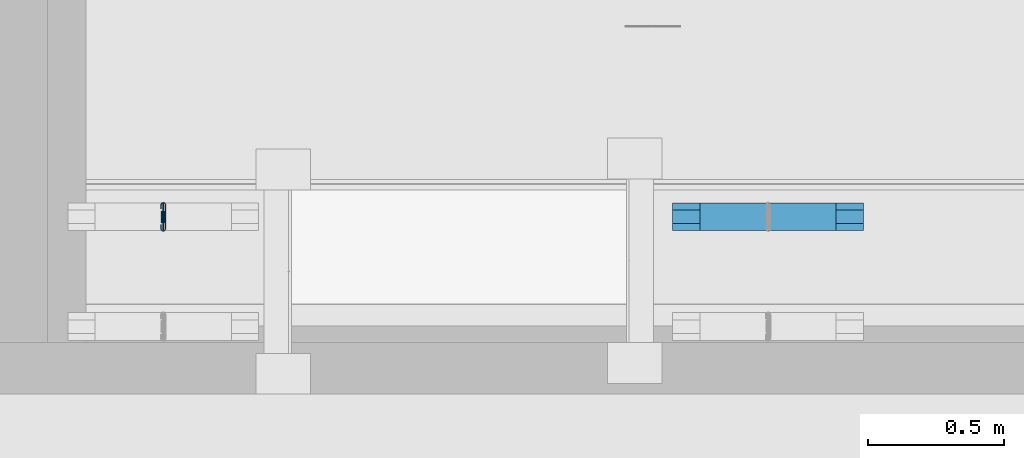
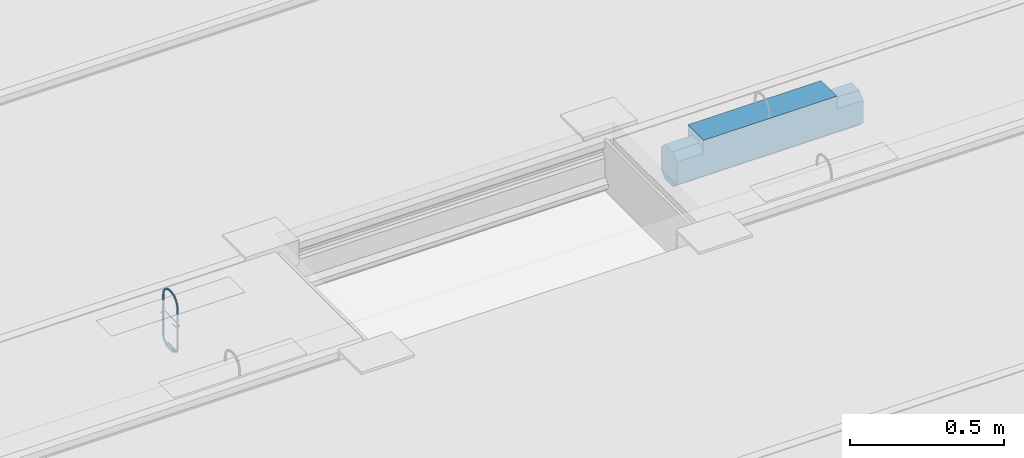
# One storey, part 179 of 230: 2 beams.
"""IFC4X3_ADD2 building model written with IfcOpenShell, lengths in millimetres."""

from ifc_helpers import new_model, si_unit, direction, origin_with_axes, place, context, subcontext, project, spatial, triangles, polygons, element, save


model = new_model("IFC4X3_ADD2")

# Units and contexts
model_context = context("Model", 3, precision=1e-05, world=origin_with_axes(), true_north=direction((0.0, 1.0)))
body_context = subcontext(model_context, "Body", "Model", "MODEL_VIEW")
ifc_project = project(units=[si_unit("LENGTHUNIT", "METRE", prefix="MILLI"), si_unit("AREAUNIT", "SQUARE_METRE"), si_unit("VOLUMEUNIT", "CUBIC_METRE"), si_unit("PLANEANGLEUNIT", "RADIAN"), si_unit("TIMEUNIT", "SECOND"), si_unit("MASSUNIT", "GRAM")], contexts=[model_context])

# Site, building, storey
site_placement = place(None, origin_with_axes())
site = spatial("IfcSite", under=ifc_project, at=site_placement, Name="Site", CompositionType="ELEMENT")
building_placement = place(site_placement, origin_with_axes())
building = spatial("IfcBuilding", under=site, at=building_placement, Name="IFC Building Story")
storey_placement = place(building_placement, origin_with_axes())
storey = spatial("IfcBuildingStorey", under=building, at=storey_placement, Name="ETAGE 00 (0)", Elevation=0.0)

# Beams
beam_1_placement = place(storey_placement, origin_with_axes())
element("IfcBeam", 1, at=beam_1_placement, inside=storey, Name="ES44", ObjectType="500*102", context=body_context, shape_type="Tessellation", body=[
    polygons([(44336.18900000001, 912.000018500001, 4199.9999879), (44336.18900000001, 810.000018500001, 4199.9999879), (44836.18900000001, 810.000018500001, 4199.9999879), (44836.18900000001, 912.000018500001, 4199.9999879), (44336.18900000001, 912.000018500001, 4148.999990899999), (44336.18900000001, 886.0000185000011, 4173.9999909), (44336.18900000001, 836.000018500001, 4173.9999909), (44336.18900000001, 810.000018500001, 4148.9999909), (44236.18900000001, 810.000018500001, 4148.9999909), (44236.18900000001, 810.000018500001, 4058.999990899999), (44936.18900000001, 810.000018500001, 4058.999990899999), (44936.18900000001, 810.000018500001, 4148.9999909), (44836.18900000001, 810.000018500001, 4148.9999909), (44836.18900000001, 836.000018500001, 4173.9999909), (44836.18900000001, 886.0000185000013, 4173.9999909), (44836.18900000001, 912.000018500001, 4148.999990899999), (44936.18900000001, 912.000018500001, 4148.9999909), (44936.18900000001, 912.000018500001, 4058.999990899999), (44236.18900000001, 912.000018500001, 4058.999990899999), (44236.18900000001, 912.000018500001, 4148.9999909), (44236.18900000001, 886.0000185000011, 4033.9999909), (44236.18900000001, 836.000018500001, 4033.9999909), (44236.18900000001, 836.000018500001, 4173.9999909), (44236.18900000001, 886.0000185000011, 4173.9999909), (44936.18900000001, 886.0000185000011, 4033.9999909), (44936.18900000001, 886.0000185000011, 4173.9999909), (44936.18900000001, 836.000018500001, 4173.9999909), (44936.18900000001, 836.000018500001, 4033.9999909)], [[[1, 2, 3, 4]], [[7, 8, 2]], [[2, 1, 6]], [[2, 6, 7]], [[1, 5, 6]], [[8, 9, 10]], [[13, 3, 2]], [[8, 10, 11]], [[8, 11, 13]], [[13, 2, 8]], [[11, 12, 13]], [[15, 16, 4]], [[4, 3, 14]], [[4, 14, 15]], [[3, 13, 14]], [[16, 17, 18]], [[5, 1, 4]], [[16, 18, 19]], [[16, 19, 5]], [[5, 4, 16]], [[19, 20, 5]], [[21, 22, 10]], [[21, 10, 9]], [[21, 9, 23]], [[21, 23, 24]], [[21, 24, 20]], [[21, 20, 19]], [[25, 18, 17]], [[25, 17, 26]], [[25, 26, 27]], [[25, 27, 12]], [[25, 12, 11]], [[25, 11, 28]], [[22, 21, 25, 28]], [[10, 22, 28, 11]], [[23, 9, 8, 7]], [[24, 23, 7, 6]], [[20, 24, 6, 5]], [[21, 19, 18, 25]], [[12, 27, 14, 13]], [[27, 26, 15, 14]], [[26, 17, 16, 15]]]),
])
beam_2_placement = place(storey_placement, origin_with_axes())
element("IfcBeam", 2, at=beam_2_placement, inside=storey, Name="LU2", ObjectType="D7", context=body_context, shape_type="Tessellation", body=[
    triangles([(42368.66502685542, 886.5000314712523, 4036.025157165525), (42368.66502685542, 883.0000270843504, 4036.025157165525), (42366.19075927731, 886.5000314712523, 4034.999929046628), (42366.19075927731, 883.0000270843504, 4034.999929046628), (42369.6882202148, 886.5000314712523, 4038.500006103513), (42369.6882202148, 883.0000270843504, 4038.500006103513), (42368.66502685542, 883.0000270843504, 4040.974855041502), (42368.66502685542, 886.5000314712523, 4040.974855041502), (42366.19075927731, 883.0000270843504, 4042.000083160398), (42366.19075927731, 886.5000314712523, 4042.000083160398), (42363.71184082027, 883.0000270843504, 4040.974855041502), (42363.71184082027, 886.5000314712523, 4040.974855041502), (42362.6886474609, 883.0000270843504, 4038.500006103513), (42362.6886474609, 886.5000314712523, 4038.500006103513), (42363.71184082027, 886.5000314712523, 4036.025157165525), (42363.71184082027, 883.0000270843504, 4036.025157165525), (42366.19075927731, 898.7500104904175, 4038.282286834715), (42363.71184082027, 898.2374691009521, 4039.170023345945), (42366.19075927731, 907.7176317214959, 4047.250053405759), (42363.71184082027, 906.829822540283, 4047.762522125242), (42368.66502685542, 906.829822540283, 4047.762522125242), (42368.66502685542, 898.2374691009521, 4039.170023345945), (42369.6882202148, 904.6865667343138, 4048.999946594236), (42369.6882202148, 897.0000446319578, 4041.313497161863), (42368.66502685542, 895.7625474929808, 4043.456680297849), (42368.66502685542, 902.5432382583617, 4050.237371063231), (42366.19075927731, 895.2500061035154, 4044.34441680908), (42366.19075927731, 901.6554290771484, 4050.750130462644), (42363.71184082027, 902.5432382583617, 4050.237371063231), (42363.71184082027, 895.7625474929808, 4043.456680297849), (42362.6886474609, 904.6865667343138, 4048.999946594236), (42362.6886474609, 897.0000446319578, 4041.313497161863), (42363.71184082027, 909.9749067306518, 4059.499887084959), (42362.6886474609, 907.499985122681, 4059.499887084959), (42366.19075927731, 910.999989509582, 4059.499887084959), (42368.66502685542, 909.9749067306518, 4059.499887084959), (42369.6882202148, 907.499985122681, 4059.499887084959), (42368.66502685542, 905.0251361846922, 4059.499887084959), (42366.19075927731, 904.0000534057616, 4059.499887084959), (42363.71184082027, 905.0251361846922, 4059.499887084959), (42363.71184082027, 905.0251361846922, 4218.50006561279), (42362.6886474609, 907.499985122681, 4218.50006561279), (42363.71184082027, 901.940368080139, 4234.008421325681), (42362.6886474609, 904.2268564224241, 4234.955456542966), (42363.71184082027, 893.1555845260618, 4247.155583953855), (42362.6886474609, 894.9056230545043, 4248.905477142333), (42363.71184082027, 896.6555889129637, 4250.65566101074), (42363.71184082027, 906.5133447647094, 4235.902491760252), (42366.19075927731, 897.3804719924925, 4251.38032608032), (42366.19075927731, 907.460452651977, 4236.294909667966), (42368.66502685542, 896.6555889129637, 4250.65566101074), (42368.66502685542, 906.5133447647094, 4235.902491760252), (42369.6882202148, 894.9056230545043, 4248.905477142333), (42369.6882202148, 904.2268564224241, 4234.955456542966), (42368.66502685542, 901.940368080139, 4234.008421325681), (42368.66502685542, 893.1555845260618, 4247.155583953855), (42366.19075927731, 900.9932601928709, 4233.616003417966), (42366.19075927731, 892.430701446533, 4246.430628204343), (42366.19075927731, 879.6160039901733, 4254.993186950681), (42363.71184082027, 880.0083492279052, 4255.940222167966), (42362.6886474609, 880.9553844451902, 4258.226710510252), (42363.71184082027, 881.9024923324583, 4260.513198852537), (42366.19075927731, 882.2947649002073, 4261.460524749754), (42368.66502685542, 881.9024923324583, 4260.513198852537), (42369.6882202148, 880.9553844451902, 4258.226710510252), (42368.66502685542, 880.0083492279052, 4255.940222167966), (42368.66502685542, 864.4999935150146, 4259.025208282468), (42366.19075927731, 864.4999935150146, 4257.999980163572), (42363.71184082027, 864.4999935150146, 4259.025208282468), (42362.6886474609, 864.4999935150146, 4261.500057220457), (42363.71184082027, 864.4999935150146, 4263.974906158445), (42366.19075927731, 864.4999935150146, 4265.000134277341), (42368.66502685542, 864.4999935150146, 4263.974906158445), (42369.6882202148, 864.4999935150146, 4261.500057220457), (42369.6882202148, 857.4999847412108, 4261.500057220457), (42368.66502685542, 857.4999847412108, 4259.025208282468), (42369.6882202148, 841.0446664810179, 4258.226710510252), (42368.66502685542, 841.9917016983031, 4255.940222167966), (42369.6882202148, 827.0944278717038, 4248.905477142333), (42368.66502685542, 828.8443937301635, 4247.155583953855), (42366.19075927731, 842.384046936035, 4254.993186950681), (42366.19075927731, 829.5692768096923, 4246.430628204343), (42363.71184082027, 828.8443937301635, 4247.155583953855), (42363.71184082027, 841.9917016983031, 4255.940222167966), (42362.6886474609, 827.0944278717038, 4248.905477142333), (42362.6886474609, 841.0446664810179, 4258.226710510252), (42363.71184082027, 825.3444620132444, 4250.65566101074), (42363.71184082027, 840.0975585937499, 4260.513198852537), (42366.19075927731, 824.6195789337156, 4251.38032608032), (42366.19075927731, 839.7052133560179, 4261.460524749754), (42368.66502685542, 825.3444620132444, 4250.65566101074), (42368.66502685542, 840.0975585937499, 4260.513198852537), (42369.6882202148, 817.773194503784, 4234.955456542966), (42368.66502685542, 815.4867061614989, 4235.902491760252), (42368.66502685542, 820.0596828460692, 4234.008421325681), (42366.19075927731, 821.0067907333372, 4233.616003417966), (42363.71184082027, 820.0596828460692, 4234.008421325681), (42362.6886474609, 817.773194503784, 4234.955456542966), (42363.71184082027, 815.4867061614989, 4235.902491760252), (42366.19075927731, 814.5395982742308, 4236.294909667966), (42368.66502685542, 812.0251441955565, 4218.50006561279), (42366.19075927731, 810.9999887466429, 4218.50006561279), (42369.6882202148, 814.4999931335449, 4218.50006561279), (42368.66502685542, 816.974914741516, 4218.50006561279), (42366.19075927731, 817.9999975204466, 4218.50006561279), (42363.71184082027, 816.974914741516, 4218.50006561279), (42362.6886474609, 814.4999931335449, 4218.50006561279), (42363.71184082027, 812.0251441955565, 4218.50006561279), (42366.19075927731, 810.9999887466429, 4059.499887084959), (42363.71184082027, 812.0251441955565, 4059.499887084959), (42366.19075927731, 814.2824192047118, 4047.250053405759), (42363.71184082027, 815.1701557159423, 4047.762522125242), (42366.19075927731, 823.2500404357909, 4038.282286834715), (42363.71184082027, 823.7625818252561, 4039.170023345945), (42368.66502685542, 823.7625818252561, 4039.170023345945), (42368.66502685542, 815.1701557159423, 4047.762522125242), (42369.6882202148, 825.0000062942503, 4041.313497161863), (42369.6882202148, 817.3134841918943, 4048.999946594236), (42368.66502685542, 819.4568126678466, 4050.237371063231), (42368.66502685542, 826.2374307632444, 4043.456680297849), (42366.19075927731, 820.3445491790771, 4050.750130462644), (42366.19075927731, 826.7500448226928, 4044.34441680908), (42363.71184082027, 826.2374307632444, 4043.456680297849), (42363.71184082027, 819.4568126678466, 4050.237371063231), (42362.6886474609, 825.0000062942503, 4041.313497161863), (42362.6886474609, 817.3134841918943, 4048.999946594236), (42363.71184082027, 835.5000194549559, 4036.025157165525), (42362.6886474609, 835.5000194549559, 4038.500006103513), (42366.19075927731, 835.5000194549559, 4034.999929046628), (42368.66502685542, 835.5000194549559, 4036.025157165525), (42369.6882202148, 835.5000194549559, 4038.500006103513), (42368.66502685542, 835.5000194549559, 4040.974855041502), (42366.19075927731, 835.5000194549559, 4042.000083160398), (42363.71184082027, 835.5000194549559, 4040.974855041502), (42363.71184082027, 839.0000238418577, 4040.974855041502), (42362.6886474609, 839.0000238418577, 4038.500006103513), (42366.19075927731, 839.0000238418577, 4042.000083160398), (42368.66502685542, 839.0000238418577, 4040.974855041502), (42369.6882202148, 839.0000238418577, 4038.500006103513), (42368.66502685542, 839.0000238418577, 4036.025157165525), (42366.19075927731, 839.0000238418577, 4034.999929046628), (42363.71184082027, 839.0000238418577, 4036.025157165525), (42374.19027099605, 839.0000238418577, 4038.500006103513), (42366.19075927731, 839.0000238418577, 4046.500099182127), (42360.53063964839, 839.0000238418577, 4044.156928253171), (42358.19124755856, 839.0000238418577, 4038.500006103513), (42371.84622802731, 839.0000238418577, 4044.156928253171), (42360.53063964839, 839.0000238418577, 4032.843083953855), (42366.19075927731, 839.0000238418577, 4030.4999130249), (42371.84622802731, 839.0000238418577, 4032.843083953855), (42371.84622802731, 883.0000270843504, 4032.843083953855), (42366.19075927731, 883.0000270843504, 4030.4999130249), (42374.19027099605, 883.0000270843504, 4038.500006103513), (42371.84622802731, 883.0000270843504, 4044.156928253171), (42366.19075927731, 883.0000270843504, 4046.500099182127), (42360.53063964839, 883.0000270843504, 4044.156928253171), (42358.19124755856, 883.0000270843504, 4038.500006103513), (42360.53063964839, 883.0000270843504, 4032.843083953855), (42362.6886474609, 814.4999931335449, 4059.499887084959), (42363.71184082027, 816.974914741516, 4059.499887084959), (42366.19075927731, 817.9999975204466, 4059.499887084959), (42368.66502685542, 816.974914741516, 4059.499887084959), (42369.6882202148, 814.4999931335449, 4059.499887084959), (42368.66502685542, 812.0251441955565, 4059.499887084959), (42368.66502685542, 857.4999847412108, 4263.974906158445), (42366.19075927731, 857.4999847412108, 4265.000134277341), (42363.71184082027, 857.4999847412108, 4263.974906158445), (42362.6886474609, 857.4999847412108, 4261.500057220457), (42363.71184082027, 857.4999847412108, 4259.025208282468), (42366.19075927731, 857.4999847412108, 4257.999980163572), (42366.19075927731, 904.0000534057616, 4218.50006561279), (42368.66502685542, 905.0251361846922, 4218.50006561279), (42369.6882202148, 907.499985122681, 4218.50006561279), (42368.66502685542, 909.9749067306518, 4218.50006561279), (42366.19075927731, 910.999989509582, 4218.50006561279), (42363.71184082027, 909.9749067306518, 4218.50006561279), (42360.08880615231, 905.0600177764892, 4149.999886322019), (42360.08880615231, 889.0000242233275, 4149.999886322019), (42359.14002685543, 905.0600177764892, 4148.354637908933), (42359.14002685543, 889.0000242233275, 4148.354637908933), (42360.88410644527, 908.0300399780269, 4149.999886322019), (42360.06090087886, 908.5050109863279, 4148.354637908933), (42362.58167724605, 911.026950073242, 4148.354637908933), (42363.0607177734, 910.2041805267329, 4149.999886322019), (42362.58167724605, 911.026950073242, 4151.645425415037), (42360.06090087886, 908.5050109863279, 4151.645425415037), (42366.02797851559, 911.9500041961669, 4151.645425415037), (42366.02797851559, 913.8500335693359, 4151.645425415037), (42361.63289794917, 912.6724164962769, 4151.645425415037), (42357.23781738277, 816.940033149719, 4151.645425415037), (42360.06090087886, 813.4950399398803, 4151.645425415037), (42359.14002685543, 816.940033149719, 4151.645425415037), (42357.23781738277, 833.0000267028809, 4151.645425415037), (42358.41448974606, 812.5450252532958, 4151.645425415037), (42359.14002685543, 833.0000267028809, 4151.645425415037), (42361.63289794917, 809.3276344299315, 4151.645425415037), (42366.02797851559, 810.0500467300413, 4151.645425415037), (42362.58167724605, 810.9731008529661, 4151.645425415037), (42366.02797851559, 808.1500173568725, 4151.645425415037), (42357.23781738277, 905.0600177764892, 4151.645425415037), (42358.41448974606, 909.455025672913, 4151.645425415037), (42357.23781738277, 889.0000242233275, 4151.645425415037), (42359.14002685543, 905.0600177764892, 4151.645425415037), (42359.14002685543, 889.0000242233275, 4151.645425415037), (42369.79519042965, 810.9731008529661, 4151.645425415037), (42370.74396972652, 809.3276344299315, 4151.645425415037), (42373.96237792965, 812.5450252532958, 4151.645425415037), (42366.34888916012, 808.1500173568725, 4151.645425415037), (42366.34888916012, 810.0500467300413, 4151.645425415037), (42372.31596679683, 813.4950399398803, 4151.645425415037), (42375.13905029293, 816.940033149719, 4151.645425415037), (42373.23684082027, 816.940033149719, 4151.645425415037), (42373.23684082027, 905.0600177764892, 4151.645425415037), (42370.74396972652, 912.6724164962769, 4151.645425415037), (42369.79519042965, 911.026950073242, 4151.645425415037), (42373.96237792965, 909.455025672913, 4151.645425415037), (42366.34888916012, 913.8500335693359, 4151.645425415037), (42366.34888916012, 911.9500041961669, 4151.645425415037), (42375.13905029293, 905.0600177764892, 4151.645425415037), (42372.31596679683, 908.5050109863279, 4151.645425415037), (42357.23781738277, 833.0000267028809, 4148.354637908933), (42359.14002685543, 833.0000267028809, 4148.354637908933), (42360.08880615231, 833.0000267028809, 4149.999886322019), (42356.2890380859, 833.0000267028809, 4149.999886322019), (42360.08880615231, 816.940033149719, 4149.999886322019), (42359.14002685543, 816.940033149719, 4148.354637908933), (42361.63289794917, 809.3276344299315, 4148.354637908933), (42366.02797851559, 810.0500467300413, 4148.354637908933), (42366.02797851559, 808.1500173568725, 4148.354637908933), (42357.23781738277, 905.0600177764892, 4148.354637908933), (42357.23781738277, 889.0000242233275, 4148.354637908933), (42358.41448974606, 909.455025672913, 4148.354637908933), (42361.63289794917, 912.6724164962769, 4148.354637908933), (42366.02797851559, 911.9500041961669, 4148.354637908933), (42366.02797851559, 913.8500335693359, 4148.354637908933), (42357.23781738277, 816.940033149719, 4148.354637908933), (42360.06090087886, 813.4950399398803, 4148.354637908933), (42358.41448974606, 812.5450252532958, 4148.354637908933), (42362.58167724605, 810.9731008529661, 4148.354637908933), (42369.79519042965, 911.026950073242, 4148.354637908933), (42370.74396972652, 912.6724164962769, 4148.354637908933), (42373.96237792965, 909.455025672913, 4148.354637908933), (42366.34888916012, 913.8500335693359, 4148.354637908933), (42366.34888916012, 911.9500041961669, 4148.354637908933), (42372.31596679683, 908.5050109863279, 4148.354637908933), (42375.13905029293, 905.0600177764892, 4148.354637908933), (42373.23684082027, 905.0600177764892, 4148.354637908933), (42373.23684082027, 816.940033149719, 4148.354637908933), (42370.74396972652, 809.3276344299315, 4148.354637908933), (42369.79519042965, 810.9731008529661, 4148.354637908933), (42373.96237792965, 812.5450252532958, 4148.354637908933), (42366.34888916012, 808.1500173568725, 4148.354637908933), (42366.34888916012, 810.0500467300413, 4148.354637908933), (42375.13905029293, 816.940033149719, 4148.354637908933), (42372.31596679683, 813.4950399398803, 4148.354637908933), (42356.2890380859, 816.940033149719, 4149.999886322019), (42357.59593505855, 812.069981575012, 4149.999886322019), (42361.15850830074, 808.5049375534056, 4149.999886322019), (42366.02797851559, 807.200002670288, 4149.999886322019), (42366.34888916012, 807.200002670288, 4149.999886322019), (42371.21835937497, 808.5049375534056, 4149.999886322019), (42374.78558349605, 812.069981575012, 4149.999886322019), (42376.08782958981, 816.940033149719, 4149.999886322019), (42376.08782958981, 905.0600177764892, 4149.999886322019), (42374.78558349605, 909.929996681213, 4149.999886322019), (42371.21835937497, 913.495113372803, 4149.999886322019), (42366.34888916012, 914.8000482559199, 4149.999886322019), (42366.02797851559, 914.8000482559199, 4149.999886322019), (42361.15850830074, 913.495113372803, 4149.999886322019), (42357.59593505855, 909.929996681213, 4149.999886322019), (42356.2890380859, 905.0600177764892, 4149.999886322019), (42356.2890380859, 889.0000242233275, 4149.999886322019), (42366.02797851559, 910.999989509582, 4149.999886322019), (42366.34888916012, 910.999989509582, 4149.999886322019), (42369.32080078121, 910.2041805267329, 4149.999886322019), (42371.49276123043, 908.0300399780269, 4149.999886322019), (42372.2880615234, 905.0600177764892, 4149.999886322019), (42372.2880615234, 816.940033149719, 4149.999886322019), (42371.49276123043, 813.9700109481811, 4149.999886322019), (42369.32080078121, 811.795797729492, 4149.999886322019), (42366.34888916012, 810.9999887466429, 4149.999886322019), (42366.02797851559, 810.9999887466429, 4149.999886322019), (42363.0607177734, 811.795797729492, 4149.999886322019), (42360.88410644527, 813.9700109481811, 4149.999886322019)], [[1, 2, 3], [4, 3, 2], [5, 6, 1], [2, 1, 6], [6, 5, 7], [8, 7, 5], [7, 8, 9], [10, 9, 8], [9, 10, 11], [12, 11, 10], [11, 12, 13], [14, 13, 12], [15, 16, 14], [13, 14, 16], [3, 4, 15], [16, 15, 4], [17, 3, 18], [15, 18, 3], [19, 17, 20], [18, 20, 17], [21, 22, 17], [17, 19, 21], [23, 24, 22], [22, 21, 23], [24, 23, 25], [26, 25, 23], [25, 26, 27], [28, 27, 26], [27, 28, 29], [29, 30, 27], [30, 29, 31], [31, 32, 30], [20, 18, 31], [32, 31, 18], [33, 20, 34], [31, 34, 20], [35, 19, 33], [20, 33, 19], [36, 21, 19], [19, 35, 36], [37, 23, 21], [21, 36, 37], [23, 37, 26], [38, 26, 37], [26, 38, 28], [39, 28, 38], [28, 39, 40], [40, 29, 28], [29, 40, 34], [34, 31, 29], [40, 41, 42], [42, 34, 40], [41, 43, 44], [44, 42, 41], [43, 45, 46], [46, 44, 43], [47, 48, 46], [44, 46, 48], [49, 50, 47], [48, 47, 50], [51, 52, 50], [50, 49, 51], [53, 54, 52], [52, 51, 53], [54, 53, 55], [56, 55, 53], [55, 56, 57], [58, 57, 56], [57, 58, 45], [45, 43, 57], [58, 59, 60], [60, 45, 58], [45, 60, 61], [61, 46, 45], [62, 47, 61], [46, 61, 47], [63, 49, 62], [47, 62, 49], [64, 51, 49], [49, 63, 64], [65, 53, 51], [51, 64, 65], [53, 65, 56], [66, 56, 65], [56, 66, 58], [59, 58, 66], [66, 67, 59], [68, 59, 67], [59, 68, 69], [69, 60, 59], [60, 69, 70], [70, 61, 60], [71, 62, 70], [61, 70, 62], [72, 63, 71], [62, 71, 63], [73, 64, 63], [63, 72, 73], [74, 65, 64], [64, 73, 74], [65, 74, 66], [67, 66, 74], [74, 75, 67], [76, 67, 75], [75, 77, 76], [78, 76, 77], [77, 79, 78], [80, 78, 79], [78, 80, 81], [82, 81, 80], [81, 82, 83], [83, 84, 81], [84, 83, 85], [85, 86, 84], [87, 88, 85], [86, 85, 88], [89, 90, 87], [88, 87, 90], [91, 92, 90], [90, 89, 91], [79, 77, 92], [92, 91, 79], [93, 79, 91], [91, 94, 93], [79, 93, 80], [95, 80, 93], [80, 95, 82], [96, 82, 95], [82, 96, 97], [97, 83, 82], [83, 97, 98], [98, 85, 83], [99, 87, 98], [85, 98, 87], [100, 89, 99], [87, 99, 89], [94, 91, 89], [89, 100, 94], [101, 94, 100], [100, 102, 101], [103, 93, 94], [94, 101, 103], [93, 103, 95], [104, 95, 103], [95, 104, 96], [105, 96, 104], [96, 105, 106], [106, 97, 96], [97, 106, 107], [107, 98, 97], [108, 99, 107], [98, 107, 99], [102, 100, 108], [99, 108, 100], [109, 102, 110], [108, 110, 102], [111, 109, 112], [110, 112, 109], [113, 111, 114], [112, 114, 111], [115, 116, 111], [111, 113, 115], [117, 118, 116], [116, 115, 117], [118, 117, 119], [120, 119, 117], [119, 120, 121], [122, 121, 120], [121, 122, 123], [123, 124, 121], [124, 123, 125], [125, 126, 124], [114, 112, 125], [126, 125, 112], [127, 114, 128], [125, 128, 114], [129, 113, 127], [114, 127, 113], [130, 115, 113], [113, 129, 130], [131, 117, 115], [115, 130, 131], [117, 131, 120], [132, 120, 131], [120, 132, 122], [133, 122, 132], [122, 133, 134], [134, 123, 122], [123, 134, 128], [128, 125, 123], [134, 135, 136], [136, 128, 134], [133, 137, 134], [135, 134, 137], [132, 138, 137], [137, 133, 132], [131, 139, 132], [138, 132, 139], [139, 131, 130], [130, 140, 139], [140, 130, 141], [129, 141, 130], [141, 129, 127], [127, 142, 141], [142, 127, 136], [128, 136, 127], [138, 139, 143], [135, 137, 144], [144, 145, 135], [146, 136, 135], [146, 135, 145], [147, 137, 138], [137, 147, 144], [138, 143, 147], [148, 136, 146], [142, 149, 141], [142, 136, 148], [148, 149, 142], [150, 143, 139], [139, 140, 150], [141, 150, 140], [150, 141, 149], [151, 150, 152], [149, 152, 150], [153, 143, 151], [150, 151, 143], [143, 153, 147], [154, 147, 153], [147, 154, 144], [155, 144, 154], [144, 155, 145], [156, 145, 155], [145, 156, 146], [157, 146, 156], [158, 148, 157], [146, 157, 148], [152, 149, 158], [148, 158, 149], [11, 13, 157], [7, 9, 155], [155, 154, 7], [153, 6, 7], [153, 7, 154], [156, 9, 11], [9, 156, 155], [11, 157, 156], [151, 6, 153], [2, 152, 4], [2, 6, 151], [151, 152, 2], [158, 157, 13], [13, 16, 158], [4, 158, 16], [158, 4, 152], [112, 110, 126], [159, 126, 110], [160, 124, 126], [126, 159, 160], [161, 121, 124], [124, 160, 161], [162, 119, 161], [121, 161, 119], [163, 118, 162], [119, 162, 118], [118, 163, 164], [164, 116, 118], [116, 164, 109], [109, 111, 116], [164, 101, 102], [102, 109, 164], [163, 103, 164], [101, 164, 103], [103, 163, 104], [162, 104, 163], [104, 162, 105], [161, 105, 162], [105, 161, 160], [160, 106, 105], [106, 160, 159], [159, 107, 106], [110, 108, 107], [107, 159, 110], [77, 75, 165], [165, 92, 77], [92, 165, 166], [166, 90, 92], [90, 166, 88], [167, 88, 166], [88, 167, 86], [168, 86, 167], [169, 84, 86], [86, 168, 169], [170, 81, 84], [84, 169, 170], [76, 78, 170], [81, 170, 78], [67, 76, 68], [170, 68, 76], [68, 170, 169], [169, 69, 68], [69, 169, 168], [168, 70, 69], [167, 71, 70], [70, 168, 167], [166, 72, 71], [71, 167, 166], [165, 73, 166], [72, 166, 73], [75, 74, 165], [73, 165, 74], [171, 57, 43], [43, 41, 171], [172, 55, 171], [57, 171, 55], [173, 54, 172], [55, 172, 54], [54, 173, 174], [174, 52, 54], [52, 174, 175], [175, 50, 52], [50, 175, 48], [176, 48, 175], [48, 176, 44], [42, 44, 176], [176, 33, 34], [34, 42, 176], [175, 35, 176], [33, 176, 35], [174, 36, 35], [35, 175, 174], [173, 37, 174], [36, 174, 37], [37, 173, 38], [172, 38, 173], [38, 172, 39], [171, 39, 172], [39, 171, 41], [41, 40, 39], [18, 15, 32], [14, 32, 15], [12, 30, 32], [32, 14, 12], [10, 27, 30], [30, 12, 10], [8, 25, 10], [27, 10, 25], [5, 24, 8], [25, 8, 24], [24, 5, 1], [1, 22, 24], [22, 1, 3], [3, 17, 22], [177, 178, 179], [180, 179, 178], [181, 177, 179], [179, 182, 181], [183, 184, 181], [181, 182, 183], [184, 185, 181], [186, 181, 185], [187, 188, 189], [190, 191, 192], [190, 192, 193], [190, 194, 191], [195, 193, 192], [196, 197, 198], [198, 191, 194], [199, 197, 196], [196, 198, 194], [200, 186, 201], [202, 203, 200], [204, 203, 202], [200, 203, 186], [185, 189, 201], [201, 186, 185], [189, 185, 187], [205, 206, 207], [197, 199, 208], [208, 209, 197], [209, 206, 205], [206, 209, 208], [210, 207, 211], [207, 210, 205], [212, 211, 213], [211, 212, 210], [214, 215, 216], [217, 188, 187], [187, 218, 217], [218, 215, 214], [214, 217, 218], [213, 219, 220], [219, 213, 211], [220, 216, 215], [216, 220, 219], [195, 221, 193], [222, 195, 223], [193, 221, 224], [195, 222, 221], [223, 225, 226], [226, 222, 223], [227, 228, 229], [230, 182, 179], [230, 179, 231], [230, 232, 182], [180, 231, 179], [233, 234, 183], [183, 182, 232], [235, 234, 233], [233, 183, 232], [236, 237, 238], [221, 226, 236], [222, 226, 221], [236, 226, 237], [239, 227, 238], [238, 237, 239], [227, 239, 228], [240, 241, 242], [243, 234, 235], [243, 244, 234], [244, 243, 241], [240, 244, 241], [245, 242, 246], [242, 245, 240], [247, 246, 248], [246, 247, 245], [249, 250, 251], [252, 229, 228], [228, 253, 252], [253, 250, 249], [249, 252, 253], [248, 254, 255], [254, 248, 246], [255, 251, 250], [251, 255, 254], [221, 236, 256], [256, 224, 221], [190, 193, 256], [224, 256, 193], [257, 194, 256], [190, 256, 194], [238, 257, 256], [256, 236, 238], [227, 258, 238], [257, 238, 258], [258, 196, 194], [194, 257, 258], [259, 199, 196], [196, 258, 259], [260, 208, 259], [199, 259, 208], [261, 206, 260], [208, 260, 206], [249, 261, 260], [260, 252, 249], [252, 260, 259], [259, 229, 252], [229, 259, 227], [258, 227, 259], [251, 262, 261], [261, 249, 251], [262, 207, 261], [206, 261, 207], [263, 211, 207], [207, 262, 263], [263, 264, 211], [219, 211, 264], [219, 264, 216], [265, 216, 264], [264, 246, 242], [242, 265, 264], [264, 263, 254], [254, 246, 264], [254, 263, 251], [262, 251, 263], [265, 242, 266], [241, 266, 242], [216, 265, 266], [266, 214, 216], [214, 266, 267], [267, 217, 214], [217, 267, 268], [268, 188, 217], [188, 268, 189], [269, 189, 268], [268, 235, 233], [233, 269, 268], [267, 243, 268], [235, 268, 243], [266, 241, 267], [243, 267, 241], [269, 233, 232], [232, 270, 269], [189, 269, 201], [270, 201, 269], [201, 270, 271], [271, 200, 201], [202, 200, 272], [271, 272, 200], [202, 180, 204], [231, 202, 272], [204, 180, 178], [202, 231, 180], [230, 231, 271], [272, 271, 231], [270, 232, 271], [230, 271, 232], [178, 177, 203], [203, 204, 178], [177, 181, 203], [186, 203, 181], [234, 273, 184], [184, 183, 234], [273, 187, 184], [185, 184, 187], [274, 218, 273], [187, 273, 218], [275, 215, 218], [218, 274, 275], [276, 220, 215], [215, 275, 276], [213, 220, 276], [276, 277, 213], [212, 213, 277], [277, 278, 212], [210, 212, 279], [278, 279, 212], [210, 279, 205], [280, 205, 279], [205, 280, 209], [281, 209, 280], [209, 281, 197], [282, 197, 281], [197, 282, 283], [283, 198, 197], [198, 283, 284], [284, 191, 198], [284, 225, 192], [192, 191, 284], [225, 223, 192], [195, 192, 223], [225, 284, 226], [237, 226, 284], [283, 239, 284], [237, 284, 239], [282, 228, 283], [239, 283, 228], [281, 253, 228], [228, 282, 281], [280, 250, 253], [253, 281, 280], [279, 255, 250], [250, 280, 279], [248, 255, 279], [279, 278, 248], [247, 248, 277], [278, 277, 248], [245, 247, 276], [277, 276, 247], [245, 276, 240], [275, 240, 276], [240, 275, 244], [274, 244, 275], [244, 274, 273], [273, 234, 244]]),
])

save(model, "model.ifc")
